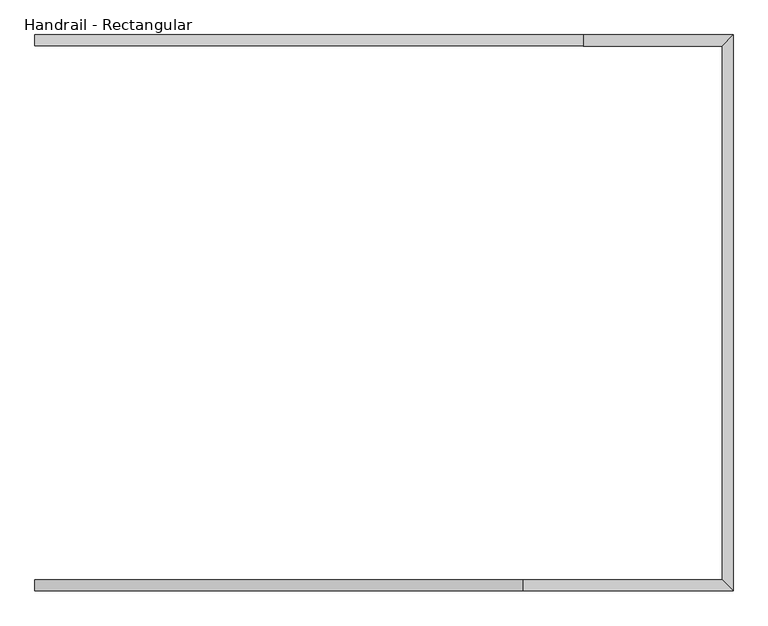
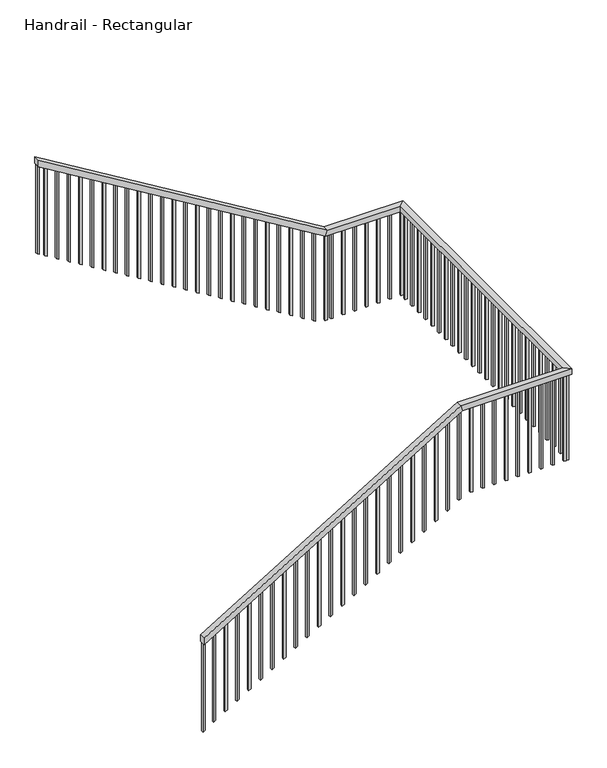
"""IFC4 building model written with IfcOpenShell, lengths in millimetres: railing geometry, Handrail - Rectangular."""

from ifc_helpers import new_model, si_unit, frame, origin, place, context, project, spatial, polyline, outline, extrude, faceted_brep, source, transform, mapped, element, save


def handrail_rectangular_694ac5ec(model_context):
    return source(origin(), model_context, "Body", "SolidModel", [
        faceted_brep([(-3656.5276449, 1413.6164721, 1083.7333333), (-3656.5276449, 1464.4164721, 1083.7333333), (-3656.5276449, 1464.4164721, 1024.3318731), (-3656.5276449, 1413.6164721, 1024.3318731), (-1421.3276449, 1413.6164721, 2438.4), (-1421.3276449, 1464.4164721, 2438.4), (-1407.1352355, 1464.4164721, 2387.6), (-1407.1352355, 1413.6164721, 2387.6), (-456.1276449, 1413.6164721, 2438.4), (-506.9276449, 1464.4164721, 2438.4), (-506.9276449, 1464.4164721, 2387.6), (-456.1276449, 1413.6164721, 2387.6), (-456.1276449, 3963.0922314, 2438.4), (-506.9276449, 3912.2922314, 2438.4), (-506.9276449, 3912.2922314, 2387.6), (-456.1276449, 3963.0922314, 2387.6), (-1141.9276449, 3963.0922314, 2438.4), (-1141.9276449, 3912.2922314, 2438.4), (-1156.1200543, 3912.2922314, 2387.6), (-1156.1200543, 3963.0922314, 2387.6), (-3656.5276449, 3963.0922314, 3962.4), (-3656.5276449, 3963.0922314, 3902.9985397), (-3656.5276449, 3912.2922314, 3902.9985397), (-3656.5276449, 3912.2922314, 3962.4)], [[[0, 1, 2, 3]], [[1, 0, 4, 5]], [[2, 1, 5, 6]], [[3, 2, 6, 7]], [[0, 3, 7, 4]], [[5, 4, 8, 9]], [[6, 5, 9, 10]], [[7, 6, 10, 11]], [[4, 7, 11, 8]], [[9, 8, 12, 13]], [[10, 9, 13, 14]], [[11, 10, 14, 15]], [[8, 11, 15, 12]], [[13, 12, 16, 17]], [[14, 13, 17, 18]], [[15, 14, 18, 19]], [[12, 15, 19, 16]], [[20, 21, 22, 23]], [[17, 16, 20, 23]], [[18, 17, 23, 22]], [[19, 18, 22, 21]], [[16, 19, 21, 20]]]),
        extrude(outline(polyline([(3851.0439943, -3570.8026449), (3862.5894488, -3589.8526449), (3050.3720877, -3589.8526449), (3038.8266332, -3570.8026449), (3851.0439943, -3570.8026449)])), frame((0.0, 3928.1672314, 0.0), z_axis=(0.0, 1.0, 0.0), x_axis=(0.0, 0.0, 1.0)), (0.0, 0.0, 1.0), 19.05),
        extrude(outline(polyline([(3789.4682367, -3469.2026449), (3801.0136913, -3488.2526449), (2988.7963301, -3488.2526449), (2977.2508756, -3469.2026449), (3789.4682367, -3469.2026449)])), frame((0.0, 3928.1672314, 0.0), z_axis=(0.0, 1.0, 0.0), x_axis=(0.0, 0.0, 1.0)), (0.0, 0.0, 1.0), 19.05),
        extrude(outline(polyline([(3727.8924791, -3367.6026449), (3739.4379337, -3386.6526449), (2927.2205726, -3386.6526449), (2915.675118, -3367.6026449), (3727.8924791, -3367.6026449)])), frame((0.0, 3928.1672314, 0.0), z_axis=(0.0, 1.0, 0.0), x_axis=(0.0, 0.0, 1.0)), (0.0, 0.0, 1.0), 19.05),
        extrude(outline(polyline([(3666.3167216, -3266.0026449), (3677.8621761, -3285.0526449), (2865.644815, -3285.0526449), (2854.0993604, -3266.0026449), (3666.3167216, -3266.0026449)])), frame((0.0, 3928.1672314, 0.0), z_axis=(0.0, 1.0, 0.0), x_axis=(0.0, 0.0, 1.0)), (0.0, 0.0, 1.0), 19.05),
        extrude(outline(polyline([(3604.740964, -3164.4026449), (3616.2864185, -3183.4526449), (2804.0690574, -3183.4526449), (2792.5236029, -3164.4026449), (3604.740964, -3164.4026449)])), frame((0.0, 3928.1672314, 0.0), z_axis=(0.0, 1.0, 0.0), x_axis=(0.0, 0.0, 1.0)), (0.0, 0.0, 1.0), 19.05),
        extrude(outline(polyline([(3543.1652064, -3062.8026449), (3554.710661, -3081.8526449), (2742.4932998, -3081.8526449), (2730.9478453, -3062.8026449), (3543.1652064, -3062.8026449)])), frame((0.0, 3928.1672314, 0.0), z_axis=(0.0, 1.0, 0.0), x_axis=(0.0, 0.0, 1.0)), (0.0, 0.0, 1.0), 19.05),
        extrude(outline(polyline([(3481.5894488, -2961.2026449), (3493.1349034, -2980.2526449), (2680.9175423, -2980.2526449), (2669.3720877, -2961.2026449), (3481.5894488, -2961.2026449)])), frame((0.0, 3928.1672314, 0.0), z_axis=(0.0, 1.0, 0.0), x_axis=(0.0, 0.0, 1.0)), (0.0, 0.0, 1.0), 19.05),
        extrude(outline(polyline([(3420.0136913, -2859.6026449), (3431.5591458, -2878.6526449), (2619.3417847, -2878.6526449), (2607.7963301, -2859.6026449), (3420.0136913, -2859.6026449)])), frame((0.0, 3928.1672314, 0.0), z_axis=(0.0, 1.0, 0.0), x_axis=(0.0, 0.0, 1.0)), (0.0, 0.0, 1.0), 19.05),
        extrude(outline(polyline([(3358.4379337, -2758.0026449), (3369.9833882, -2777.0526449), (2557.7660271, -2777.0526449), (2546.2205726, -2758.0026449), (3358.4379337, -2758.0026449)])), frame((0.0, 3928.1672314, 0.0), z_axis=(0.0, 1.0, 0.0), x_axis=(0.0, 0.0, 1.0)), (0.0, 0.0, 1.0), 19.05),
        extrude(outline(polyline([(3296.8621761, -2656.4026449), (3308.4076307, -2675.4526449), (2496.1902695, -2675.4526449), (2484.644815, -2656.4026449), (3296.8621761, -2656.4026449)])), frame((0.0, 3928.1672314, 0.0), z_axis=(0.0, 1.0, 0.0), x_axis=(0.0, 0.0, 1.0)), (0.0, 0.0, 1.0), 19.05),
        extrude(outline(polyline([(3235.2864185, -2554.8026449), (3246.8318731, -2573.8526449), (2434.614512, -2573.8526449), (2423.0690574, -2554.8026449), (3235.2864185, -2554.8026449)])), frame((0.0, 3928.1672314, 0.0), z_axis=(0.0, 1.0, 0.0), x_axis=(0.0, 0.0, 1.0)), (0.0, 0.0, 1.0), 19.05),
        extrude(outline(polyline([(3173.710661, -2453.2026449), (3185.2561155, -2472.2526449), (2373.0387544, -2472.2526449), (2361.4932998, -2453.2026449), (3173.710661, -2453.2026449)])), frame((0.0, 3928.1672314, 0.0), z_axis=(0.0, 1.0, 0.0), x_axis=(0.0, 0.0, 1.0)), (0.0, 0.0, 1.0), 19.05),
        extrude(outline(polyline([(3112.1349034, -2351.6026449), (3123.6803579, -2370.6526449), (2311.4629968, -2370.6526449), (2299.9175423, -2351.6026449), (3112.1349034, -2351.6026449)])), frame((0.0, 3928.1672314, 0.0), z_axis=(0.0, 1.0, 0.0), x_axis=(0.0, 0.0, 1.0)), (0.0, 0.0, 1.0), 19.05),
        extrude(outline(polyline([(3050.5591458, -2250.0026449), (3062.1046004, -2269.0526449), (2249.8872392, -2269.0526449), (2238.3417847, -2250.0026449), (3050.5591458, -2250.0026449)])), frame((0.0, 3928.1672314, 0.0), z_axis=(0.0, 1.0, 0.0), x_axis=(0.0, 0.0, 1.0)), (0.0, 0.0, 1.0), 19.05),
        extrude(outline(polyline([(2988.9833882, -2148.4026449), (3000.5288428, -2167.4526449), (2188.3114817, -2167.4526449), (2176.7660271, -2148.4026449), (2988.9833882, -2148.4026449)])), frame((0.0, 3928.1672314, 0.0), z_axis=(0.0, 1.0, 0.0), x_axis=(0.0, 0.0, 1.0)), (0.0, 0.0, 1.0), 19.05),
        extrude(outline(polyline([(2927.4076307, -2046.8026449), (2938.9530852, -2065.8526449), (2126.7357241, -2065.8526449), (2115.1902695, -2046.8026449), (2927.4076307, -2046.8026449)])), frame((0.0, 3928.1672314, 0.0), z_axis=(0.0, 1.0, 0.0), x_axis=(0.0, 0.0, 1.0)), (0.0, 0.0, 1.0), 19.05),
        extrude(outline(polyline([(2865.8318731, -1945.2026449), (2877.3773276, -1964.2526449), (2065.1599665, -1964.2526449), (2053.614512, -1945.2026449), (2865.8318731, -1945.2026449)])), frame((0.0, 3928.1672314, 0.0), z_axis=(0.0, 1.0, 0.0), x_axis=(0.0, 0.0, 1.0)), (0.0, 0.0, 1.0), 19.05),
        extrude(outline(polyline([(2804.2561155, -1843.6026449), (2815.80157, -1862.6526449), (2003.5842089, -1862.6526449), (1992.0387544, -1843.6026449), (2804.2561155, -1843.6026449)])), frame((0.0, 3928.1672314, 0.0), z_axis=(0.0, 1.0, 0.0), x_axis=(0.0, 0.0, 1.0)), (0.0, 0.0, 1.0), 19.05),
        extrude(outline(polyline([(2742.6803579, -1742.0026449), (2754.2258125, -1761.0526449), (1942.0084514, -1761.0526449), (1930.4629968, -1742.0026449), (2742.6803579, -1742.0026449)])), frame((0.0, 3928.1672314, 0.0), z_axis=(0.0, 1.0, 0.0), x_axis=(0.0, 0.0, 1.0)), (0.0, 0.0, 1.0), 19.05),
        extrude(outline(polyline([(2681.1046004, -1640.4026449), (2692.6500549, -1659.4526449), (1880.4326938, -1659.4526449), (1868.8872392, -1640.4026449), (2681.1046004, -1640.4026449)])), frame((0.0, 3928.1672314, 0.0), z_axis=(0.0, 1.0, 0.0), x_axis=(0.0, 0.0, 1.0)), (0.0, 0.0, 1.0), 19.05),
        extrude(outline(polyline([(2619.5288428, -1538.8026449), (2631.0742973, -1557.8526449), (1818.8569362, -1557.8526449), (1807.3114817, -1538.8026449), (2619.5288428, -1538.8026449)])), frame((0.0, 3928.1672314, 0.0), z_axis=(0.0, 1.0, 0.0), x_axis=(0.0, 0.0, 1.0)), (0.0, 0.0, 1.0), 19.05),
        extrude(outline(polyline([(2557.9530852, -1437.2026449), (2569.4985397, -1456.2526449), (1757.2811786, -1456.2526449), (1745.7357241, -1437.2026449), (2557.9530852, -1437.2026449)])), frame((0.0, 3928.1672314, 0.0), z_axis=(0.0, 1.0, 0.0), x_axis=(0.0, 0.0, 1.0)), (0.0, 0.0, 1.0), 19.05),
        extrude(outline(polyline([(2496.3773276, -1335.6026449), (2507.9227822, -1354.6526449), (1695.7054211, -1354.6526449), (1684.1599665, -1335.6026449), (2496.3773276, -1335.6026449)])), frame((0.0, 3928.1672314, 0.0), z_axis=(0.0, 1.0, 0.0), x_axis=(0.0, 0.0, 1.0)), (0.0, 0.0, 1.0), 19.05),
        extrude(outline(polyline([(2434.80157, -1234.0026449), (2446.3470246, -1253.0526449), (1634.1296635, -1253.0526449), (1622.5842089, -1234.0026449), (2434.80157, -1234.0026449)])), frame((0.0, 3928.1672314, 0.0), z_axis=(0.0, 1.0, 0.0), x_axis=(0.0, 0.0, 1.0)), (0.0, 0.0, 1.0), 19.05),
        extrude(outline(polyline([(-1081.6026449, 3947.2172314), (-1081.6026449, 3928.1672314), (-1100.6526449, 3928.1672314), (-1100.6526449, 3947.2172314), (-1081.6026449, 3947.2172314)])), frame((0.0, 0.0, 1600.2), z_axis=(0.0, 0.0, 1.0), x_axis=(1.0, 0.0, 0.0)), (0.0, 0.0, 1.0), 787.4),
        extrude(outline(polyline([(-980.0026449, 3947.2172314), (-980.0026449, 3928.1672314), (-999.0526449, 3928.1672314), (-999.0526449, 3947.2172314), (-980.0026449, 3947.2172314)])), frame((0.0, 0.0, 1600.2), z_axis=(0.0, 0.0, 1.0), x_axis=(1.0, 0.0, 0.0)), (0.0, 0.0, 1.0), 787.4),
        extrude(outline(polyline([(-878.4026449, 3947.2172314), (-878.4026449, 3928.1672314), (-897.4526449, 3928.1672314), (-897.4526449, 3947.2172314), (-878.4026449, 3947.2172314)])), frame((0.0, 0.0, 1600.2), z_axis=(0.0, 0.0, 1.0), x_axis=(1.0, 0.0, 0.0)), (0.0, 0.0, 1.0), 787.4),
        extrude(outline(polyline([(-776.8026449, 3947.2172314), (-776.8026449, 3928.1672314), (-795.8526449, 3928.1672314), (-795.8526449, 3947.2172314), (-776.8026449, 3947.2172314)])), frame((0.0, 0.0, 1600.2), z_axis=(0.0, 0.0, 1.0), x_axis=(1.0, 0.0, 0.0)), (0.0, 0.0, 1.0), 787.4),
        extrude(outline(polyline([(-675.2026449, 3947.2172314), (-675.2026449, 3928.1672314), (-694.2526449, 3928.1672314), (-694.2526449, 3947.2172314), (-675.2026449, 3947.2172314)])), frame((0.0, 0.0, 1600.2), z_axis=(0.0, 0.0, 1.0), x_axis=(1.0, 0.0, 0.0)), (0.0, 0.0, 1.0), 787.4),
        extrude(outline(polyline([(-573.6026449, 3947.2172314), (-573.6026449, 3928.1672314), (-592.6526449, 3928.1672314), (-592.6526449, 3947.2172314), (-573.6026449, 3947.2172314)])), frame((0.0, 0.0, 1600.2), z_axis=(0.0, 0.0, 1.0), x_axis=(1.0, 0.0, 0.0)), (0.0, 0.0, 1.0), 787.4),
        extrude(outline(polyline([(-472.0026449, 3867.8914721), (-491.0526449, 3867.8914721), (-491.0526449, 3886.9414721), (-472.0026449, 3886.9414721), (-472.0026449, 3867.8914721)])), frame((0.0, 0.0, 1600.2), z_axis=(0.0, 0.0, 1.0), x_axis=(1.0, 0.0, 0.0)), (0.0, 0.0, 1.0), 787.4),
        extrude(outline(polyline([(-472.0026449, 3766.2914721), (-491.0526449, 3766.2914721), (-491.0526449, 3785.3414721), (-472.0026449, 3785.3414721), (-472.0026449, 3766.2914721)])), frame((0.0, 0.0, 1600.2), z_axis=(0.0, 0.0, 1.0), x_axis=(1.0, 0.0, 0.0)), (0.0, 0.0, 1.0), 787.4),
        extrude(outline(polyline([(-472.0026449, 3664.6914721), (-491.0526449, 3664.6914721), (-491.0526449, 3683.7414721), (-472.0026449, 3683.7414721), (-472.0026449, 3664.6914721)])), frame((0.0, 0.0, 1600.2), z_axis=(0.0, 0.0, 1.0), x_axis=(1.0, 0.0, 0.0)), (0.0, 0.0, 1.0), 787.4),
        extrude(outline(polyline([(-472.0026449, 3563.0914721), (-491.0526449, 3563.0914721), (-491.0526449, 3582.1414721), (-472.0026449, 3582.1414721), (-472.0026449, 3563.0914721)])), frame((0.0, 0.0, 1600.2), z_axis=(0.0, 0.0, 1.0), x_axis=(1.0, 0.0, 0.0)), (0.0, 0.0, 1.0), 787.4),
        extrude(outline(polyline([(-472.0026449, 3461.4914721), (-491.0526449, 3461.4914721), (-491.0526449, 3480.5414721), (-472.0026449, 3480.5414721), (-472.0026449, 3461.4914721)])), frame((0.0, 0.0, 1600.2), z_axis=(0.0, 0.0, 1.0), x_axis=(1.0, 0.0, 0.0)), (0.0, 0.0, 1.0), 787.4),
        extrude(outline(polyline([(-472.0026449, 3359.8914721), (-491.0526449, 3359.8914721), (-491.0526449, 3378.9414721), (-472.0026449, 3378.9414721), (-472.0026449, 3359.8914721)])), frame((0.0, 0.0, 1600.2), z_axis=(0.0, 0.0, 1.0), x_axis=(1.0, 0.0, 0.0)), (0.0, 0.0, 1.0), 787.4),
        extrude(outline(polyline([(-472.0026449, 3258.2914721), (-491.0526449, 3258.2914721), (-491.0526449, 3277.3414721), (-472.0026449, 3277.3414721), (-472.0026449, 3258.2914721)])), frame((0.0, 0.0, 1600.2), z_axis=(0.0, 0.0, 1.0), x_axis=(1.0, 0.0, 0.0)), (0.0, 0.0, 1.0), 787.4),
        extrude(outline(polyline([(-472.0026449, 3156.6914721), (-491.0526449, 3156.6914721), (-491.0526449, 3175.7414721), (-472.0026449, 3175.7414721), (-472.0026449, 3156.6914721)])), frame((0.0, 0.0, 1600.2), z_axis=(0.0, 0.0, 1.0), x_axis=(1.0, 0.0, 0.0)), (0.0, 0.0, 1.0), 787.4),
        extrude(outline(polyline([(-472.0026449, 3055.0914721), (-491.0526449, 3055.0914721), (-491.0526449, 3074.1414721), (-472.0026449, 3074.1414721), (-472.0026449, 3055.0914721)])), frame((0.0, 0.0, 1600.2), z_axis=(0.0, 0.0, 1.0), x_axis=(1.0, 0.0, 0.0)), (0.0, 0.0, 1.0), 787.4),
        extrude(outline(polyline([(-472.0026449, 2953.4914721), (-491.0526449, 2953.4914721), (-491.0526449, 2972.5414721), (-472.0026449, 2972.5414721), (-472.0026449, 2953.4914721)])), frame((0.0, 0.0, 1600.2), z_axis=(0.0, 0.0, 1.0), x_axis=(1.0, 0.0, 0.0)), (0.0, 0.0, 1.0), 787.4),
        extrude(outline(polyline([(-472.0026449, 2851.8914721), (-491.0526449, 2851.8914721), (-491.0526449, 2870.9414721), (-472.0026449, 2870.9414721), (-472.0026449, 2851.8914721)])), frame((0.0, 0.0, 1600.2), z_axis=(0.0, 0.0, 1.0), x_axis=(1.0, 0.0, 0.0)), (0.0, 0.0, 1.0), 787.4),
        extrude(outline(polyline([(-472.0026449, 2750.2914721), (-491.0526449, 2750.2914721), (-491.0526449, 2769.3414721), (-472.0026449, 2769.3414721), (-472.0026449, 2750.2914721)])), frame((0.0, 0.0, 1600.2), z_axis=(0.0, 0.0, 1.0), x_axis=(1.0, 0.0, 0.0)), (0.0, 0.0, 1.0), 787.4),
        extrude(outline(polyline([(-472.0026449, 2648.6914721), (-491.0526449, 2648.6914721), (-491.0526449, 2667.7414721), (-472.0026449, 2667.7414721), (-472.0026449, 2648.6914721)])), frame((0.0, 0.0, 1600.2), z_axis=(0.0, 0.0, 1.0), x_axis=(1.0, 0.0, 0.0)), (0.0, 0.0, 1.0), 787.4),
        extrude(outline(polyline([(-472.0026449, 2547.0914721), (-491.0526449, 2547.0914721), (-491.0526449, 2566.1414721), (-472.0026449, 2566.1414721), (-472.0026449, 2547.0914721)])), frame((0.0, 0.0, 1600.2), z_axis=(0.0, 0.0, 1.0), x_axis=(1.0, 0.0, 0.0)), (0.0, 0.0, 1.0), 787.4),
        extrude(outline(polyline([(-472.0026449, 2445.4914721), (-491.0526449, 2445.4914721), (-491.0526449, 2464.5414721), (-472.0026449, 2464.5414721), (-472.0026449, 2445.4914721)])), frame((0.0, 0.0, 1600.2), z_axis=(0.0, 0.0, 1.0), x_axis=(1.0, 0.0, 0.0)), (0.0, 0.0, 1.0), 787.4),
        extrude(outline(polyline([(-472.0026449, 2343.8914721), (-491.0526449, 2343.8914721), (-491.0526449, 2362.9414721), (-472.0026449, 2362.9414721), (-472.0026449, 2343.8914721)])), frame((0.0, 0.0, 1600.2), z_axis=(0.0, 0.0, 1.0), x_axis=(1.0, 0.0, 0.0)), (0.0, 0.0, 1.0), 787.4),
        extrude(outline(polyline([(-472.0026449, 2242.2914721), (-491.0526449, 2242.2914721), (-491.0526449, 2261.3414721), (-472.0026449, 2261.3414721), (-472.0026449, 2242.2914721)])), frame((0.0, 0.0, 1600.2), z_axis=(0.0, 0.0, 1.0), x_axis=(1.0, 0.0, 0.0)), (0.0, 0.0, 1.0), 787.4),
        extrude(outline(polyline([(-472.0026449, 2140.6914721), (-491.0526449, 2140.6914721), (-491.0526449, 2159.7414721), (-472.0026449, 2159.7414721), (-472.0026449, 2140.6914721)])), frame((0.0, 0.0, 1600.2), z_axis=(0.0, 0.0, 1.0), x_axis=(1.0, 0.0, 0.0)), (0.0, 0.0, 1.0), 787.4),
        extrude(outline(polyline([(-472.0026449, 2039.0914721), (-491.0526449, 2039.0914721), (-491.0526449, 2058.1414721), (-472.0026449, 2058.1414721), (-472.0026449, 2039.0914721)])), frame((0.0, 0.0, 1600.2), z_axis=(0.0, 0.0, 1.0), x_axis=(1.0, 0.0, 0.0)), (0.0, 0.0, 1.0), 787.4),
        extrude(outline(polyline([(-472.0026449, 1937.4914721), (-491.0526449, 1937.4914721), (-491.0526449, 1956.5414721), (-472.0026449, 1956.5414721), (-472.0026449, 1937.4914721)])), frame((0.0, 0.0, 1600.2), z_axis=(0.0, 0.0, 1.0), x_axis=(1.0, 0.0, 0.0)), (0.0, 0.0, 1.0), 787.4),
        extrude(outline(polyline([(-472.0026449, 1835.8914721), (-491.0526449, 1835.8914721), (-491.0526449, 1854.9414721), (-472.0026449, 1854.9414721), (-472.0026449, 1835.8914721)])), frame((0.0, 0.0, 1600.2), z_axis=(0.0, 0.0, 1.0), x_axis=(1.0, 0.0, 0.0)), (0.0, 0.0, 1.0), 787.4),
        extrude(outline(polyline([(-472.0026449, 1734.2914721), (-491.0526449, 1734.2914721), (-491.0526449, 1753.3414721), (-472.0026449, 1753.3414721), (-472.0026449, 1734.2914721)])), frame((0.0, 0.0, 1600.2), z_axis=(0.0, 0.0, 1.0), x_axis=(1.0, 0.0, 0.0)), (0.0, 0.0, 1.0), 787.4),
        extrude(outline(polyline([(-472.0026449, 1632.6914721), (-491.0526449, 1632.6914721), (-491.0526449, 1651.7414721), (-472.0026449, 1651.7414721), (-472.0026449, 1632.6914721)])), frame((0.0, 0.0, 1600.2), z_axis=(0.0, 0.0, 1.0), x_axis=(1.0, 0.0, 0.0)), (0.0, 0.0, 1.0), 787.4),
        extrude(outline(polyline([(-472.0026449, 1531.0914721), (-491.0526449, 1531.0914721), (-491.0526449, 1550.1414721), (-472.0026449, 1550.1414721), (-472.0026449, 1531.0914721)])), frame((0.0, 0.0, 1600.2), z_axis=(0.0, 0.0, 1.0), x_axis=(1.0, 0.0, 0.0)), (0.0, 0.0, 1.0), 787.4),
        extrude(outline(polyline([(-516.4526449, 1429.4914721), (-516.4526449, 1448.5414721), (-497.4026449, 1448.5414721), (-497.4026449, 1429.4914721), (-516.4526449, 1429.4914721)])), frame((0.0, 0.0, 1600.2), z_axis=(0.0, 0.0, 1.0), x_axis=(1.0, 0.0, 0.0)), (0.0, 0.0, 1.0), 787.4),
        extrude(outline(polyline([(-618.0526449, 1429.4914721), (-618.0526449, 1448.5414721), (-599.0026449, 1448.5414721), (-599.0026449, 1429.4914721), (-618.0526449, 1429.4914721)])), frame((0.0, 0.0, 1600.2), z_axis=(0.0, 0.0, 1.0), x_axis=(1.0, 0.0, 0.0)), (0.0, 0.0, 1.0), 787.4),
        extrude(outline(polyline([(-719.6526449, 1429.4914721), (-719.6526449, 1448.5414721), (-700.6026449, 1448.5414721), (-700.6026449, 1429.4914721), (-719.6526449, 1429.4914721)])), frame((0.0, 0.0, 1600.2), z_axis=(0.0, 0.0, 1.0), x_axis=(1.0, 0.0, 0.0)), (0.0, 0.0, 1.0), 787.4),
        extrude(outline(polyline([(-821.2526449, 1429.4914721), (-821.2526449, 1448.5414721), (-802.2026449, 1448.5414721), (-802.2026449, 1429.4914721), (-821.2526449, 1429.4914721)])), frame((0.0, 0.0, 1600.2), z_axis=(0.0, 0.0, 1.0), x_axis=(1.0, 0.0, 0.0)), (0.0, 0.0, 1.0), 787.4),
        extrude(outline(polyline([(-922.8526449, 1429.4914721), (-922.8526449, 1448.5414721), (-903.8026449, 1448.5414721), (-903.8026449, 1429.4914721), (-922.8526449, 1429.4914721)])), frame((0.0, 0.0, 1600.2), z_axis=(0.0, 0.0, 1.0), x_axis=(1.0, 0.0, 0.0)), (0.0, 0.0, 1.0), 787.4),
        extrude(outline(polyline([(-1024.4526449, 1429.4914721), (-1024.4526449, 1448.5414721), (-1005.4026449, 1448.5414721), (-1005.4026449, 1429.4914721), (-1024.4526449, 1429.4914721)])), frame((0.0, 0.0, 1600.2), z_axis=(0.0, 0.0, 1.0), x_axis=(1.0, 0.0, 0.0)), (0.0, 0.0, 1.0), 787.4),
        extrude(outline(polyline([(-1126.0526449, 1429.4914721), (-1126.0526449, 1448.5414721), (-1107.0026449, 1448.5414721), (-1107.0026449, 1429.4914721), (-1126.0526449, 1429.4914721)])), frame((0.0, 0.0, 1600.2), z_axis=(0.0, 0.0, 1.0), x_axis=(1.0, 0.0, 0.0)), (0.0, 0.0, 1.0), 787.4),
        extrude(outline(polyline([(-1227.6526449, 1429.4914721), (-1227.6526449, 1448.5414721), (-1208.6026449, 1448.5414721), (-1208.6026449, 1429.4914721), (-1227.6526449, 1429.4914721)])), frame((0.0, 0.0, 1600.2), z_axis=(0.0, 0.0, 1.0), x_axis=(1.0, 0.0, 0.0)), (0.0, 0.0, 1.0), 787.4),
        extrude(outline(polyline([(-1329.2526449, 1429.4914721), (-1329.2526449, 1448.5414721), (-1310.2026449, 1448.5414721), (-1310.2026449, 1429.4914721), (-1329.2526449, 1429.4914721)])), frame((0.0, 0.0, 1600.2), z_axis=(0.0, 0.0, 1.0), x_axis=(1.0, 0.0, 0.0)), (0.0, 0.0, 1.0), 787.4),
        extrude(outline(polyline([(2323.1955094, -1513.4026449), (2311.6500549, -1532.4526449), (1499.4326938, -1532.4526449), (1510.9781483, -1513.4026449), (2323.1955094, -1513.4026449)])), frame((0.0, 1429.4914721, 0.0), z_axis=(0.0, 1.0, 0.0), x_axis=(0.0, 0.0, 1.0)), (0.0, 0.0, 1.0), 19.05),
        extrude(outline(polyline([(2261.6197519, -1615.0026449), (2250.0742973, -1634.0526449), (1437.8569362, -1634.0526449), (1449.4023907, -1615.0026449), (2261.6197519, -1615.0026449)])), frame((0.0, 1429.4914721, 0.0), z_axis=(0.0, 1.0, 0.0), x_axis=(0.0, 0.0, 1.0)), (0.0, 0.0, 1.0), 19.05),
        extrude(outline(polyline([(2200.0439943, -1716.6026449), (2188.4985397, -1735.6526449), (1376.2811786, -1735.6526449), (1387.8266332, -1716.6026449), (2200.0439943, -1716.6026449)])), frame((0.0, 1429.4914721, 0.0), z_axis=(0.0, 1.0, 0.0), x_axis=(0.0, 0.0, 1.0)), (0.0, 0.0, 1.0), 19.05),
        extrude(outline(polyline([(2138.4682367, -1818.2026449), (2126.9227822, -1837.2526449), (1314.7054211, -1837.2526449), (1326.2508756, -1818.2026449), (2138.4682367, -1818.2026449)])), frame((0.0, 1429.4914721, 0.0), z_axis=(0.0, 1.0, 0.0), x_axis=(0.0, 0.0, 1.0)), (0.0, 0.0, 1.0), 19.05),
        extrude(outline(polyline([(2076.8924791, -1919.8026449), (2065.3470246, -1938.8526449), (1253.1296635, -1938.8526449), (1264.675118, -1919.8026449), (2076.8924791, -1919.8026449)])), frame((0.0, 1429.4914721, 0.0), z_axis=(0.0, 1.0, 0.0), x_axis=(0.0, 0.0, 1.0)), (0.0, 0.0, 1.0), 19.05),
        extrude(outline(polyline([(2015.3167216, -2021.4026449), (2003.771267, -2040.4526449), (1191.5539059, -2040.4526449), (1203.0993604, -2021.4026449), (2015.3167216, -2021.4026449)])), frame((0.0, 1429.4914721, 0.0), z_axis=(0.0, 1.0, 0.0), x_axis=(0.0, 0.0, 1.0)), (0.0, 0.0, 1.0), 19.05),
        extrude(outline(polyline([(1953.740964, -2123.0026449), (1942.1955094, -2142.0526449), (1129.9781483, -2142.0526449), (1141.5236029, -2123.0026449), (1953.740964, -2123.0026449)])), frame((0.0, 1429.4914721, 0.0), z_axis=(0.0, 1.0, 0.0), x_axis=(0.0, 0.0, 1.0)), (0.0, 0.0, 1.0), 19.05),
        extrude(outline(polyline([(1892.1652064, -2224.6026449), (1880.6197519, -2243.6526449), (1068.4023907, -2243.6526449), (1079.9478453, -2224.6026449), (1892.1652064, -2224.6026449)])), frame((0.0, 1429.4914721, 0.0), z_axis=(0.0, 1.0, 0.0), x_axis=(0.0, 0.0, 1.0)), (0.0, 0.0, 1.0), 19.05),
        extrude(outline(polyline([(1830.5894488, -2326.2026449), (1819.0439943, -2345.2526449), (1006.8266332, -2345.2526449), (1018.3720877, -2326.2026449), (1830.5894488, -2326.2026449)])), frame((0.0, 1429.4914721, 0.0), z_axis=(0.0, 1.0, 0.0), x_axis=(0.0, 0.0, 1.0)), (0.0, 0.0, 1.0), 19.05),
        extrude(outline(polyline([(1769.0136913, -2427.8026449), (1757.4682367, -2446.8526449), (945.2508756, -2446.8526449), (956.7963301, -2427.8026449), (1769.0136913, -2427.8026449)])), frame((0.0, 1429.4914721, 0.0), z_axis=(0.0, 1.0, 0.0), x_axis=(0.0, 0.0, 1.0)), (0.0, 0.0, 1.0), 19.05),
        extrude(outline(polyline([(1707.4379337, -2529.4026449), (1695.8924791, -2548.4526449), (883.675118, -2548.4526449), (895.2205726, -2529.4026449), (1707.4379337, -2529.4026449)])), frame((0.0, 1429.4914721, 0.0), z_axis=(0.0, 1.0, 0.0), x_axis=(0.0, 0.0, 1.0)), (0.0, 0.0, 1.0), 19.05),
        extrude(outline(polyline([(1645.8621761, -2631.0026449), (1634.3167216, -2650.0526449), (822.0993604, -2650.0526449), (833.644815, -2631.0026449), (1645.8621761, -2631.0026449)])), frame((0.0, 1429.4914721, 0.0), z_axis=(0.0, 1.0, 0.0), x_axis=(0.0, 0.0, 1.0)), (0.0, 0.0, 1.0), 19.05),
        extrude(outline(polyline([(1584.2864185, -2732.6026449), (1572.740964, -2751.6526449), (760.5236029, -2751.6526449), (772.0690574, -2732.6026449), (1584.2864185, -2732.6026449)])), frame((0.0, 1429.4914721, 0.0), z_axis=(0.0, 1.0, 0.0), x_axis=(0.0, 0.0, 1.0)), (0.0, 0.0, 1.0), 19.05),
        extrude(outline(polyline([(1522.710661, -2834.2026449), (1511.1652064, -2853.2526449), (698.9478453, -2853.2526449), (710.4932998, -2834.2026449), (1522.710661, -2834.2026449)])), frame((0.0, 1429.4914721, 0.0), z_axis=(0.0, 1.0, 0.0), x_axis=(0.0, 0.0, 1.0)), (0.0, 0.0, 1.0), 19.05),
        extrude(outline(polyline([(1461.1349034, -2935.8026449), (1449.5894488, -2954.8526449), (637.3720877, -2954.8526449), (648.9175423, -2935.8026449), (1461.1349034, -2935.8026449)])), frame((0.0, 1429.4914721, 0.0), z_axis=(0.0, 1.0, 0.0), x_axis=(0.0, 0.0, 1.0)), (0.0, 0.0, 1.0), 19.05),
        extrude(outline(polyline([(1399.5591458, -3037.4026449), (1388.0136913, -3056.4526449), (575.7963301, -3056.4526449), (587.3417847, -3037.4026449), (1399.5591458, -3037.4026449)])), frame((0.0, 1429.4914721, 0.0), z_axis=(0.0, 1.0, 0.0), x_axis=(0.0, 0.0, 1.0)), (0.0, 0.0, 1.0), 19.05),
        extrude(outline(polyline([(1337.9833882, -3139.0026449), (1326.4379337, -3158.0526449), (514.2205726, -3158.0526449), (525.7660271, -3139.0026449), (1337.9833882, -3139.0026449)])), frame((0.0, 1429.4914721, 0.0), z_axis=(0.0, 1.0, 0.0), x_axis=(0.0, 0.0, 1.0)), (0.0, 0.0, 1.0), 19.05),
        extrude(outline(polyline([(1276.4076307, -3240.6026449), (1264.8621761, -3259.6526449), (452.644815, -3259.6526449), (464.1902695, -3240.6026449), (1276.4076307, -3240.6026449)])), frame((0.0, 1429.4914721, 0.0), z_axis=(0.0, 1.0, 0.0), x_axis=(0.0, 0.0, 1.0)), (0.0, 0.0, 1.0), 19.05),
        extrude(outline(polyline([(1214.8318731, -3342.2026449), (1203.2864185, -3361.2526449), (391.0690574, -3361.2526449), (402.614512, -3342.2026449), (1214.8318731, -3342.2026449)])), frame((0.0, 1429.4914721, 0.0), z_axis=(0.0, 1.0, 0.0), x_axis=(0.0, 0.0, 1.0)), (0.0, 0.0, 1.0), 19.05),
        extrude(outline(polyline([(1153.2561155, -3443.8026449), (1141.710661, -3462.8526449), (329.4932998, -3462.8526449), (341.0387544, -3443.8026449), (1153.2561155, -3443.8026449)])), frame((0.0, 1429.4914721, 0.0), z_axis=(0.0, 1.0, 0.0), x_axis=(0.0, 0.0, 1.0)), (0.0, 0.0, 1.0), 19.05),
        extrude(outline(polyline([(1091.6803579, -3545.4026449), (1080.1349034, -3564.4526449), (267.9175423, -3564.4526449), (279.4629968, -3545.4026449), (1091.6803579, -3545.4026449)])), frame((0.0, 1429.4914721, 0.0), z_axis=(0.0, 1.0, 0.0), x_axis=(0.0, 0.0, 1.0)), (0.0, 0.0, 1.0), 19.05),
        extrude(outline(polyline([(-1132.4026449, 3947.2172314), (-1132.4026449, 3928.1672314), (-1151.4526449, 3928.1672314), (-1151.4526449, 3947.2172314), (-1132.4026449, 3947.2172314)])), frame((0.0, 0.0, 1600.2), z_axis=(0.0, 0.0, 1.0), x_axis=(1.0, 0.0, 0.0)), (0.0, 0.0, 1.0), 787.4),
        extrude(outline(polyline([(-472.0026449, 3928.1672314), (-491.0526449, 3928.1672314), (-491.0526449, 3947.2172314), (-472.0026449, 3947.2172314), (-472.0026449, 3928.1672314)])), frame((0.0, 0.0, 1600.2), z_axis=(0.0, 0.0, 1.0), x_axis=(1.0, 0.0, 0.0)), (0.0, 0.0, 1.0), 787.4),
        extrude(outline(polyline([(-491.0526449, 1429.4914721), (-491.0526449, 1448.5414721), (-472.0026449, 1448.5414721), (-472.0026449, 1429.4914721), (-491.0526449, 1429.4914721)])), frame((0.0, 0.0, 1600.2), z_axis=(0.0, 0.0, 1.0), x_axis=(1.0, 0.0, 0.0)), (0.0, 0.0, 1.0), 787.4),
        extrude(outline(polyline([(2387.6, -1411.8026449), (2387.6, -1430.8526449), (1561.0084514, -1430.8526449), (1572.5539059, -1411.8026449), (2387.6, -1411.8026449)])), frame((0.0, 1429.4914721, 0.0), z_axis=(0.0, 1.0, 0.0), x_axis=(0.0, 0.0, 1.0)), (0.0, 0.0, 1.0), 19.05),
        extrude(outline(polyline([(3891.4530852, -3637.4776449), (3902.9985397, -3656.5276449), (3090.7811786, -3656.5276449), (3079.2357241, -3637.4776449), (3891.4530852, -3637.4776449)])), frame((0.0, 3928.1672314, 0.0), z_axis=(0.0, 1.0, 0.0), x_axis=(0.0, 0.0, 1.0)), (0.0, 0.0, 1.0), 19.05),
        extrude(outline(polyline([(1035.8773276, -3637.4776449), (1024.3318731, -3656.5276449), (212.114512, -3656.5276449), (223.6599665, -3637.4776449), (1035.8773276, -3637.4776449)])), frame((0.0, 1429.4914721, 0.0), z_axis=(0.0, 1.0, 0.0), x_axis=(0.0, 0.0, 1.0)), (0.0, 0.0, 1.0), 19.05),
    ])


if __name__ == "__main__":
    model = new_model("IFC4")
    model_context = context("Model", 3, world=origin())
    ifc_project = project(units=[si_unit("LENGTHUNIT", "METRE", prefix="MILLI")], contexts=[model_context])
    site = spatial("IfcSite", under=ifc_project)
    building = spatial("IfcBuilding", under=site)
    placement = place(None, origin())
    handrail_rectangular_shape = handrail_rectangular_694ac5ec(model_context)
    element("IfcRailing", 1, ObjectType="Handrail - Rectangular", at=placement, inside=building, context=model_context, shape_type="MappedRepresentation", body=[
        mapped(handrail_rectangular_shape, transform((0.0, 0.0, 0.0), x_axis=(1.0, 0.0, 0.0), y_axis=(0.0, 1.0, 0.0), z_axis=(0.0, 0.0, 1.0))),
    ])
    save(model, "model.ifc")
